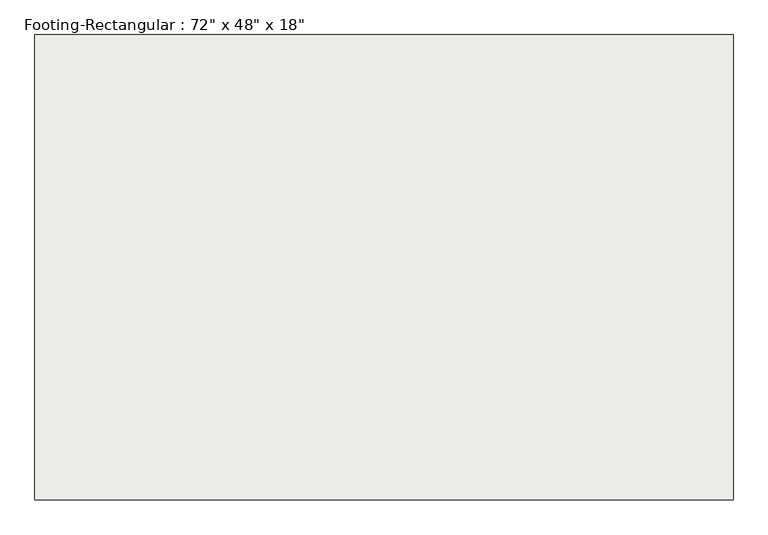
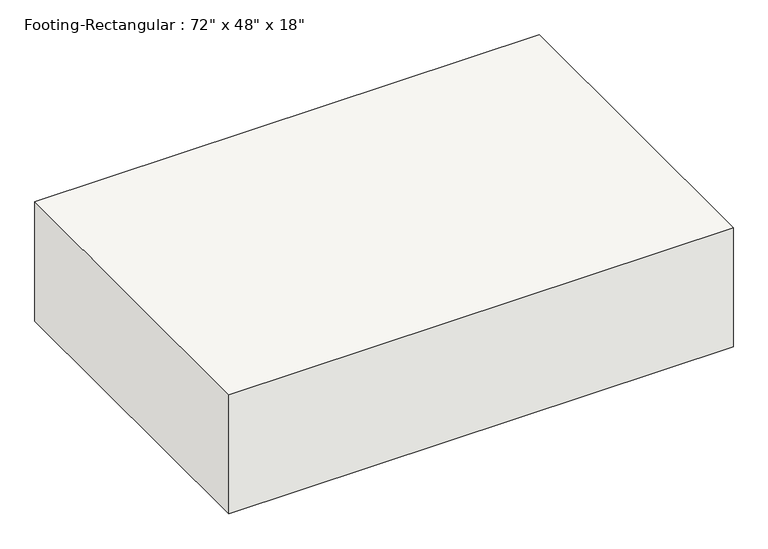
"""IFC4 building model written with IfcOpenShell, lengths in millimetres: slab geometry."""

from ifc_helpers import new_model, si_unit, frame, origin, place, context, project, spatial, polyline, outline, extrude, source, transform, mapped, element, save


def slab_05425d98(model_context):
    return source(origin(), model_context, "Body", "SweptSolid", [
        extrude(outline(polyline([(914.4, 609.6), (914.4, -609.6), (-914.4, -609.6), (-914.4, 609.6), (914.4, 609.6)])), frame((0.0, 0.0, -457.2), z_axis=(0.0, 0.0, 1.0), x_axis=(1.0, 0.0, 0.0)), (0.0, 0.0, 1.0), 457.2),
    ])


if __name__ == "__main__":
    model = new_model("IFC4")
    model_context = context("Model", 3, world=origin())
    ifc_project = project(units=[si_unit("LENGTHUNIT", "METRE", prefix="MILLI")], contexts=[model_context])
    site = spatial("IfcSite", under=ifc_project)
    building = spatial("IfcBuilding", under=site)
    placement = place(None, origin())
    slab_shape = slab_05425d98(model_context)
    element("IfcSlab", 1, ObjectType="Footing-Rectangular : 72\" x 48\" x 18\"", at=placement, inside=building, context=model_context, shape_type="MappedRepresentation", body=[
        mapped(slab_shape, transform((0.0, 0.0, 0.0), x_axis=(1.0, 0.0, 0.0), y_axis=(0.0, 1.0, 0.0), z_axis=(0.0, 0.0, 1.0))),
    ])
    save(model, "model.ifc")
